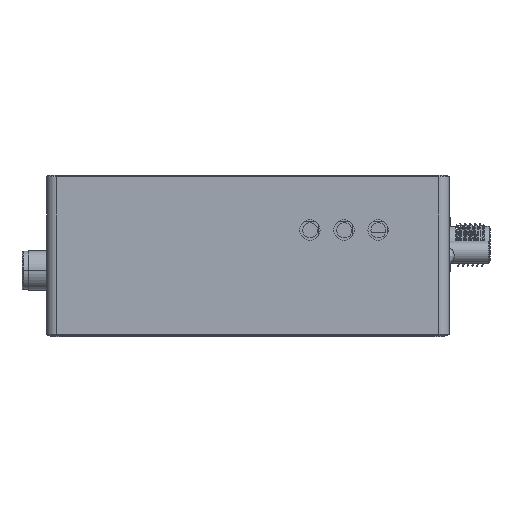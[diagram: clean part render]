
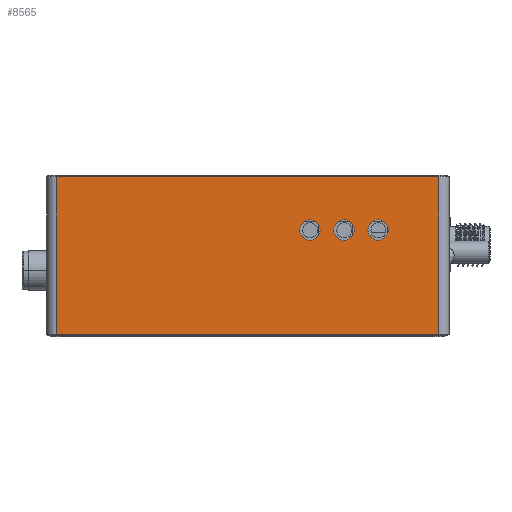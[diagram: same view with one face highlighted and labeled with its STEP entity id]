
A CAD part, left-side view. The second image highlights one B-rep face of the part: STEP entity #8565.
In plain terms, the highlighted planar face has unit normal (-1, 0, 0).
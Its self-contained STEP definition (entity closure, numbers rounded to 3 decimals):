
#11 = CARTESIAN_POINT ( 'NONE',  ( -48.854, -10.109, 66.932 ) ) ;
#166 = CARTESIAN_POINT ( 'NONE',  ( -48.854, -15.109, 66.932 ) ) ;
#388 = CARTESIAN_POINT ( 'NONE',  ( -48.854, -24.009, 76.232 ) ) ;
#392 = ORIENTED_EDGE ( 'NONE', *, *, #9616, .F. ) ;
#428 = CARTESIAN_POINT ( 'NONE',  ( -48.854, -10.109, 68.432 ) ) ;
#525 = EDGE_CURVE ( 'NONE', #9634, #10617, #8743, .T. ) ;
#765 = CARTESIAN_POINT ( 'NONE',  ( -48.854, -5.109, 68.432 ) ) ;
#946 = CARTESIAN_POINT ( 'NONE',  ( -48.854, -10.109, 69.932 ) ) ;
#1105 = EDGE_CURVE ( 'NONE', #9634, #9794, #4336, .T. ) ;
#1110 = EDGE_CURVE ( 'NONE', #12499, #8458, #2152, .T. ) ;
#1241 = CIRCLE ( 'NONE', #12440, 1.5 ) ;
#1373 = EDGE_CURVE ( 'NONE', #3899, #10617, #8547, .T. ) ;
#1480 = CARTESIAN_POINT ( 'NONE',  ( -48.854, -5.109, 66.932 ) ) ;
#1535 = DIRECTION ( 'NONE',  ( 0., 0., 1. ) ) ;
#1602 = FACE_BOUND ( 'NONE', #2140, .T. ) ;
#1681 = DIRECTION ( 'NONE',  ( 0., 0., 1. ) ) ;
#2140 = EDGE_LOOP ( 'NONE', ( #13724, #7589 ) ) ;
#2152 = CIRCLE ( 'NONE', #10287, 1.5 ) ;
#2308 = PLANE ( 'NONE',  #10519 ) ;
#2502 = CARTESIAN_POINT ( 'NONE',  ( -48.854, 31.991, 76.232 ) ) ;
#2661 = AXIS2_PLACEMENT_3D ( 'NONE', #7515, #8540, #6440 ) ;
#2702 = AXIS2_PLACEMENT_3D ( 'NONE', #6230, #7308, #10898 ) ;
#3279 = EDGE_LOOP ( 'NONE', ( #8356, #8700 ) ) ;
#3576 = EDGE_CURVE ( 'NONE', #6838, #13495, #9003, .T. ) ;
#3754 = DIRECTION ( 'NONE',  ( 0., 0., 1. ) ) ;
#3885 = ORIENTED_EDGE ( 'NONE', *, *, #1373, .T. ) ;
#3899 = VERTEX_POINT ( 'NONE', #388 ) ;
#4123 = VERTEX_POINT ( 'NONE', #946 ) ;
#4336 = LINE ( 'NONE', #9279, #10407 ) ;
#4449 = ORIENTED_EDGE ( 'NONE', *, *, #1110, .F. ) ;
#4738 = VERTEX_POINT ( 'NONE', #11 ) ;
#4959 = DIRECTION ( 'NONE',  ( 0., -1., 0. ) ) ;
#4990 = ORIENTED_EDGE ( 'NONE', *, *, #12917, .T. ) ;
#5160 = VECTOR ( 'NONE', #7671, 1000. ) ;
#5327 = ORIENTED_EDGE ( 'NONE', *, *, #525, .F. ) ;
#5348 = CIRCLE ( 'NONE', #12322, 1.5 ) ;
#5375 = DIRECTION ( 'NONE',  ( -1., 0., 0. ) ) ;
#5884 = VECTOR ( 'NONE', #1681, 1000. ) ;
#5907 = ORIENTED_EDGE ( 'NONE', *, *, #1105, .T. ) ;
#5986 = FACE_BOUND ( 'NONE', #3279, .T. ) ;
#6230 = CARTESIAN_POINT ( 'NONE',  ( -48.854, -15.109, 68.432 ) ) ;
#6440 = DIRECTION ( 'NONE',  ( 0., 0., 1. ) ) ;
#6838 = VERTEX_POINT ( 'NONE', #10809 ) ;
#6895 = CARTESIAN_POINT ( 'NONE',  ( -48.854, -15.109, 68.432 ) ) ;
#7108 = DIRECTION ( 'NONE',  ( -1., 0., 0. ) ) ;
#7308 = DIRECTION ( 'NONE',  ( -1., 0., 0. ) ) ;
#7324 = FACE_BOUND ( 'NONE', #8778, .T. ) ;
#7515 = CARTESIAN_POINT ( 'NONE',  ( -48.854, -10.109, 68.432 ) ) ;
#7589 = ORIENTED_EDGE ( 'NONE', *, *, #12087, .F. ) ;
#7671 = DIRECTION ( 'NONE',  ( 0., 0., 1. ) ) ;
#7978 = DIRECTION ( 'NONE',  ( -1., 0., 0. ) ) ;
#8271 = DIRECTION ( 'NONE',  ( 0., 0., 1. ) ) ;
#8342 = AXIS2_PLACEMENT_3D ( 'NONE', #428, #11160, #3754 ) ;
#8356 = ORIENTED_EDGE ( 'NONE', *, *, #8913, .F. ) ;
#8458 = VERTEX_POINT ( 'NONE', #12879 ) ;
#8540 = DIRECTION ( 'NONE',  ( -1., 0., 0. ) ) ;
#8547 = LINE ( 'NONE', #2502, #10410 ) ;
#8557 = CARTESIAN_POINT ( 'NONE',  ( -48.854, -24.009, 52.932 ) ) ;
#8565 = ADVANCED_FACE ( 'NONE', ( #7324, #5986, #1602, #9849 ), #2308, .T. ) ;
#8594 = CARTESIAN_POINT ( 'NONE',  ( -48.854, -5.109, 68.432 ) ) ;
#8700 = ORIENTED_EDGE ( 'NONE', *, *, #11778, .F. ) ;
#8743 = LINE ( 'NONE', #12607, #5884 ) ;
#8778 = EDGE_LOOP ( 'NONE', ( #392, #4449 ) ) ;
#8913 = EDGE_CURVE ( 'NONE', #4123, #4738, #12209, .T. ) ;
#9003 = CIRCLE ( 'NONE', #2702, 1.5 ) ;
#9279 = CARTESIAN_POINT ( 'NONE',  ( -48.854, 31.991, 53.132 ) ) ;
#9616 = EDGE_CURVE ( 'NONE', #8458, #12499, #1241, .T. ) ;
#9634 = VERTEX_POINT ( 'NONE', #11408 ) ;
#9773 = DIRECTION ( 'NONE',  ( -1., 0., 0. ) ) ;
#9794 = VERTEX_POINT ( 'NONE', #13843 ) ;
#9849 = FACE_OUTER_BOUND ( 'NONE', #13982, .T. ) ;
#10213 = LINE ( 'NONE', #8557, #5160 ) ;
#10287 = AXIS2_PLACEMENT_3D ( 'NONE', #8594, #9773, #13052 ) ;
#10407 = VECTOR ( 'NONE', #4959, 1000. ) ;
#10410 = VECTOR ( 'NONE', #10994, 1000. ) ;
#10519 = AXIS2_PLACEMENT_3D ( 'NONE', #11838, #5375, #10938 ) ;
#10617 = VERTEX_POINT ( 'NONE', #12417 ) ;
#10809 = CARTESIAN_POINT ( 'NONE',  ( -48.854, -15.109, 69.932 ) ) ;
#10898 = DIRECTION ( 'NONE',  ( 0., 0., 1. ) ) ;
#10938 = DIRECTION ( 'NONE',  ( 0., 0., 1. ) ) ;
#10994 = DIRECTION ( 'NONE',  ( 0., 1., 0. ) ) ;
#11160 = DIRECTION ( 'NONE',  ( -1., 0., 0. ) ) ;
#11408 = CARTESIAN_POINT ( 'NONE',  ( -48.854, 31.991, 53.132 ) ) ;
#11778 = EDGE_CURVE ( 'NONE', #4738, #4123, #12629, .T. ) ;
#11838 = CARTESIAN_POINT ( 'NONE',  ( -48.854, 31.991, 52.932 ) ) ;
#12087 = EDGE_CURVE ( 'NONE', #13495, #6838, #5348, .T. ) ;
#12209 = CIRCLE ( 'NONE', #8342, 1.5 ) ;
#12322 = AXIS2_PLACEMENT_3D ( 'NONE', #6895, #7978, #1535 ) ;
#12417 = CARTESIAN_POINT ( 'NONE',  ( -48.854, 31.991, 76.232 ) ) ;
#12440 = AXIS2_PLACEMENT_3D ( 'NONE', #765, #7108, #8271 ) ;
#12499 = VERTEX_POINT ( 'NONE', #1480 ) ;
#12607 = CARTESIAN_POINT ( 'NONE',  ( -48.854, 31.991, 52.932 ) ) ;
#12629 = CIRCLE ( 'NONE', #2661, 1.5 ) ;
#12879 = CARTESIAN_POINT ( 'NONE',  ( -48.854, -5.109, 69.932 ) ) ;
#12917 = EDGE_CURVE ( 'NONE', #9794, #3899, #10213, .T. ) ;
#13052 = DIRECTION ( 'NONE',  ( 0., 0., 1. ) ) ;
#13495 = VERTEX_POINT ( 'NONE', #166 ) ;
#13724 = ORIENTED_EDGE ( 'NONE', *, *, #3576, .F. ) ;
#13843 = CARTESIAN_POINT ( 'NONE',  ( -48.854, -24.009, 53.132 ) ) ;
#13982 = EDGE_LOOP ( 'NONE', ( #5327, #5907, #4990, #3885 ) ) ;
